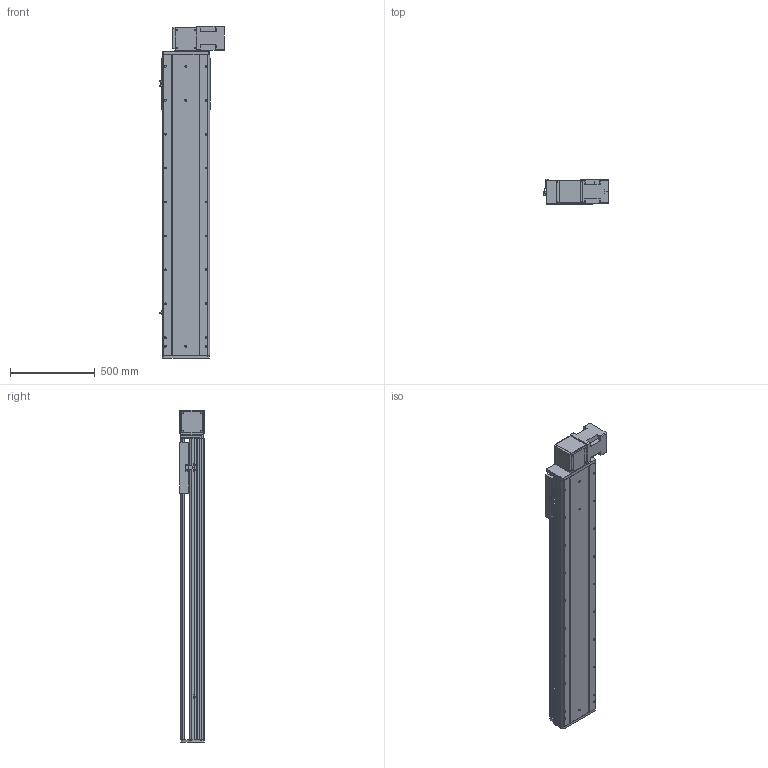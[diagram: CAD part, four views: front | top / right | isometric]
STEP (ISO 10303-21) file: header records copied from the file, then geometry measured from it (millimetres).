
FILE_DESCRIPTION (( 'STEP AP214' ), '1' );
FILE_NAME ('RTB28S-XX-1350-BL-M100-XX-C4.STEP', '2025-12-22T02:21:44', ( '' ), ( '' ), 'SwSTEP 2.0', 'SolidWorks 2018', '' );
FILE_SCHEMA (( 'AUTOMOTIVE_DESIGN' ));
Length unit declared in the file: millimetre
Products named in the file (4): RTB28S-GY-004^RTB28S-XX-XX-BL-M100-XX-C4; RTB28S-GY-011^RTB28S-XX-XX-BL-M100-XX-C4; RTB28S-XX-1350-BL-M100-XX-C4; RTB28S-GY-008^RTB28S-XX-XX-BL-M100-XX-C4
Assembly tree (3 placements, depth 2):
  RTB28S-XX-1350-BL-M100-XX-C4
    RTB28S-GY-011^RTB28S-XX-XX-BL-M100-XX-C4
    RTB28S-GY-004^RTB28S-XX-XX-BL-M100-XX-C4
    RTB28S-GY-008^RTB28S-XX-XX-BL-M100-XX-C4
Bounding box: 380.7 x 145 x 1957 mm (x, y, z)
Volume: 35119162.7 mm3; surface area: 3360346.3 mm2
Topology: 3 solids, 4 shells, 808 faces, 2148 edges, 1368 vertices
Faces by surface type: cylinder 375, plane 349, cone 80, torus 4
Entity records: 30485 total; most frequent: CARTESIAN_POINT 5302, DIRECTION 4554, ORIENTED_EDGE 4232, EDGE_CURVE 2116, AXIS2_PLACEMENT_3D 1652, VERTEX_POINT 1368, VECTOR 1250, LINE 1250
